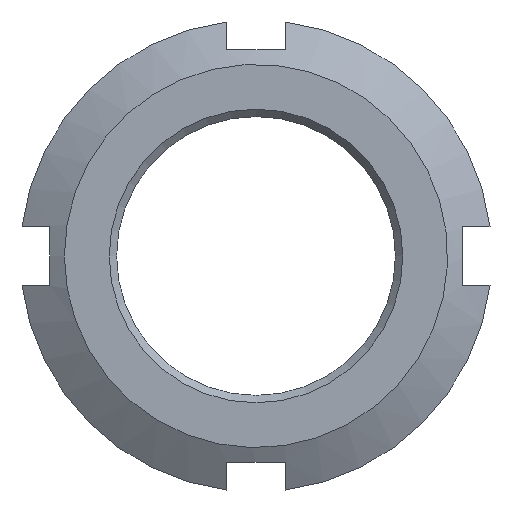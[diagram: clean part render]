
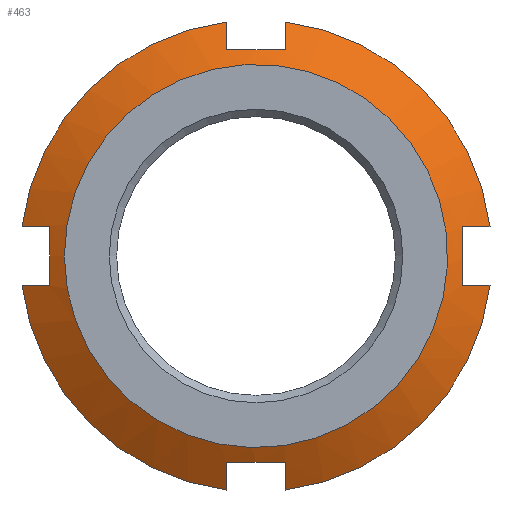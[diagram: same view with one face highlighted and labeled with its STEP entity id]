
A CAD part, left-side view. The second image highlights one B-rep face of the part: STEP entity #463.
In plain terms, the highlighted conical face has half-angle 60 degrees and reference radius 14.5 mm.
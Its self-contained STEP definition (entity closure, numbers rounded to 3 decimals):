
#15=(
BOUNDED_CURVE()
B_SPLINE_CURVE(2,(#701,#702,#703),.UNSPECIFIED.,.F.,.F.)
B_SPLINE_CURVE_WITH_KNOTS((3,3),(0.,0.216),.UNSPECIFIED.)
CURVE()
GEOMETRIC_REPRESENTATION_ITEM()
RATIONAL_B_SPLINE_CURVE((1.,1.002,1.))
REPRESENTATION_ITEM('')
);
#16=(
BOUNDED_CURVE()
B_SPLINE_CURVE(2,(#733,#734,#735),.UNSPECIFIED.,.F.,.F.)
B_SPLINE_CURVE_WITH_KNOTS((3,3),(0.,0.216),.UNSPECIFIED.)
CURVE()
GEOMETRIC_REPRESENTATION_ITEM()
RATIONAL_B_SPLINE_CURVE((1.,1.002,1.))
REPRESENTATION_ITEM('')
);
#17=(
BOUNDED_CURVE()
B_SPLINE_CURVE(2,(#765,#766,#767),.UNSPECIFIED.,.F.,.F.)
B_SPLINE_CURVE_WITH_KNOTS((3,3),(0.,0.216),.UNSPECIFIED.)
CURVE()
GEOMETRIC_REPRESENTATION_ITEM()
RATIONAL_B_SPLINE_CURVE((1.,1.002,1.))
REPRESENTATION_ITEM('')
);
#18=(
BOUNDED_CURVE()
B_SPLINE_CURVE(2,(#797,#798,#799),.UNSPECIFIED.,.F.,.F.)
B_SPLINE_CURVE_WITH_KNOTS((3,3),(0.,0.216),.UNSPECIFIED.)
CURVE()
GEOMETRIC_REPRESENTATION_ITEM()
RATIONAL_B_SPLINE_CURVE((1.,1.002,1.))
REPRESENTATION_ITEM('')
);
#19=(
BOUNDED_CURVE()
B_SPLINE_CURVE(2,(#805,#806,#807),.UNSPECIFIED.,.F.,.F.)
B_SPLINE_CURVE_WITH_KNOTS((3,3),(0.,0.216),.UNSPECIFIED.)
CURVE()
GEOMETRIC_REPRESENTATION_ITEM()
RATIONAL_B_SPLINE_CURVE((1.,1.002,1.))
REPRESENTATION_ITEM('')
);
#20=(
BOUNDED_CURVE()
B_SPLINE_CURVE(2,(#810,#811,#812),.UNSPECIFIED.,.F.,.F.)
B_SPLINE_CURVE_WITH_KNOTS((3,3),(0.568,0.999),
 .UNSPECIFIED.)
CURVE()
GEOMETRIC_REPRESENTATION_ITEM()
RATIONAL_B_SPLINE_CURVE((1.066,1.077,1.066))
REPRESENTATION_ITEM('')
);
#21=(
BOUNDED_CURVE()
B_SPLINE_CURVE(2,(#814,#815,#816),.UNSPECIFIED.,.F.,.F.)
B_SPLINE_CURVE_WITH_KNOTS((3,3),(0.568,0.999),
 .UNSPECIFIED.)
CURVE()
GEOMETRIC_REPRESENTATION_ITEM()
RATIONAL_B_SPLINE_CURVE((1.066,1.077,1.066))
REPRESENTATION_ITEM('')
);
#22=(
BOUNDED_CURVE()
B_SPLINE_CURVE(2,(#821,#822,#823),.UNSPECIFIED.,.F.,.F.)
B_SPLINE_CURVE_WITH_KNOTS((3,3),(0.,0.216),.UNSPECIFIED.)
CURVE()
GEOMETRIC_REPRESENTATION_ITEM()
RATIONAL_B_SPLINE_CURVE((1.,1.002,1.))
REPRESENTATION_ITEM('')
);
#23=(
BOUNDED_CURVE()
B_SPLINE_CURVE(2,(#826,#827,#828),.UNSPECIFIED.,.F.,.F.)
B_SPLINE_CURVE_WITH_KNOTS((3,3),(0.568,0.999),
 .UNSPECIFIED.)
CURVE()
GEOMETRIC_REPRESENTATION_ITEM()
RATIONAL_B_SPLINE_CURVE((1.066,1.077,1.066))
REPRESENTATION_ITEM('')
);
#24=(
BOUNDED_CURVE()
B_SPLINE_CURVE(2,(#841,#842,#843),.UNSPECIFIED.,.F.,.F.)
B_SPLINE_CURVE_WITH_KNOTS((3,3),(0.142,0.349),
 .UNSPECIFIED.)
CURVE()
GEOMETRIC_REPRESENTATION_ITEM()
RATIONAL_B_SPLINE_CURVE((1.003,1.003,1.))
REPRESENTATION_ITEM('')
);
#25=(
BOUNDED_CURVE()
B_SPLINE_CURVE(2,(#847,#848,#849),.UNSPECIFIED.,.F.,.F.)
B_SPLINE_CURVE_WITH_KNOTS((3,3),(0.568,0.999),
 .UNSPECIFIED.)
CURVE()
GEOMETRIC_REPRESENTATION_ITEM()
RATIONAL_B_SPLINE_CURVE((1.066,1.077,1.066))
REPRESENTATION_ITEM('')
);
#26=(
BOUNDED_CURVE()
B_SPLINE_CURVE(2,(#852,#853,#854),.UNSPECIFIED.,.F.,.F.)
B_SPLINE_CURVE_WITH_KNOTS((3,3),(0.,0.207),.UNSPECIFIED.)
CURVE()
GEOMETRIC_REPRESENTATION_ITEM()
RATIONAL_B_SPLINE_CURVE((1.,1.003,1.003))
REPRESENTATION_ITEM('')
);
#119=FACE_BOUND('',#177,.T.);
#145=FACE_OUTER_BOUND('',#176,.T.);
#176=EDGE_LOOP('',(#418,#419,#420,#421,#422,#423,#424,#425,#426,#427,#428,
#429,#430,#431,#432,#433));
#177=EDGE_LOOP('',(#434));
#181=CIRCLE('',#472,13.);
#191=CIRCLE('',#498,16.);
#192=CIRCLE('',#500,16.);
#193=CIRCLE('',#502,16.);
#194=CIRCLE('',#507,16.);
#198=VERTEX_POINT('',#635);
#218=VERTEX_POINT('',#698);
#219=VERTEX_POINT('',#700);
#222=VERTEX_POINT('',#730);
#223=VERTEX_POINT('',#732);
#226=VERTEX_POINT('',#762);
#227=VERTEX_POINT('',#764);
#230=VERTEX_POINT('',#794);
#231=VERTEX_POINT('',#796);
#232=VERTEX_POINT('',#802);
#233=VERTEX_POINT('',#804);
#234=VERTEX_POINT('',#818);
#235=VERTEX_POINT('',#820);
#236=VERTEX_POINT('',#830);
#237=VERTEX_POINT('',#834);
#238=VERTEX_POINT('',#840);
#239=VERTEX_POINT('',#846);
#243=EDGE_CURVE('',#198,#198,#181,.T.);
#265=EDGE_CURVE('',#219,#218,#15,.T.);
#271=EDGE_CURVE('',#223,#222,#16,.T.);
#277=EDGE_CURVE('',#227,#226,#17,.T.);
#283=EDGE_CURVE('',#231,#230,#18,.T.);
#286=EDGE_CURVE('',#233,#232,#19,.T.);
#288=EDGE_CURVE('',#222,#233,#20,.T.);
#289=EDGE_CURVE('',#226,#231,#21,.T.);
#291=EDGE_CURVE('',#235,#234,#22,.T.);
#293=EDGE_CURVE('',#218,#235,#23,.T.);
#294=EDGE_CURVE('',#236,#219,#191,.T.);
#297=EDGE_CURVE('',#230,#237,#192,.T.);
#298=EDGE_CURVE('',#234,#223,#193,.T.);
#299=EDGE_CURVE('',#238,#236,#24,.T.);
#301=EDGE_CURVE('',#239,#238,#25,.T.);
#303=EDGE_CURVE('',#237,#239,#26,.T.);
#304=EDGE_CURVE('',#232,#227,#194,.T.);
#418=ORIENTED_EDGE('',*,*,#286,.T.);
#419=ORIENTED_EDGE('',*,*,#304,.T.);
#420=ORIENTED_EDGE('',*,*,#277,.T.);
#421=ORIENTED_EDGE('',*,*,#289,.T.);
#422=ORIENTED_EDGE('',*,*,#283,.T.);
#423=ORIENTED_EDGE('',*,*,#297,.T.);
#424=ORIENTED_EDGE('',*,*,#303,.T.);
#425=ORIENTED_EDGE('',*,*,#301,.T.);
#426=ORIENTED_EDGE('',*,*,#299,.T.);
#427=ORIENTED_EDGE('',*,*,#294,.T.);
#428=ORIENTED_EDGE('',*,*,#265,.T.);
#429=ORIENTED_EDGE('',*,*,#293,.T.);
#430=ORIENTED_EDGE('',*,*,#291,.T.);
#431=ORIENTED_EDGE('',*,*,#298,.T.);
#432=ORIENTED_EDGE('',*,*,#271,.T.);
#433=ORIENTED_EDGE('',*,*,#288,.T.);
#434=ORIENTED_EDGE('',*,*,#243,.T.);
#437=CONICAL_SURFACE('',#508,14.5,60.);
#463=ADVANCED_FACE('',(#145,#119),#437,.T.);
#472=AXIS2_PLACEMENT_3D('',#636,#523,#524);
#498=AXIS2_PLACEMENT_3D('',#831,#599,#600);
#500=AXIS2_PLACEMENT_3D('',#836,#605,#606);
#502=AXIS2_PLACEMENT_3D('',#838,#609,#610);
#507=AXIS2_PLACEMENT_3D('',#856,#621,#622);
#508=AXIS2_PLACEMENT_3D('',#857,#623,#624);
#523=DIRECTION('center_axis',(1.,0.,0.));
#524=DIRECTION('ref_axis',(0.,-1.,0.));
#599=DIRECTION('center_axis',(-1.,0.,0.));
#600=DIRECTION('ref_axis',(0.,-1.,0.));
#605=DIRECTION('center_axis',(-1.,0.,0.));
#606=DIRECTION('ref_axis',(0.,-1.,0.));
#609=DIRECTION('center_axis',(-1.,0.,0.));
#610=DIRECTION('ref_axis',(0.,-1.,0.));
#621=DIRECTION('center_axis',(-1.,0.,0.));
#622=DIRECTION('ref_axis',(0.,-1.,0.));
#623=DIRECTION('center_axis',(1.,0.,0.));
#624=DIRECTION('ref_axis',(0.,-1.,0.));
#635=CARTESIAN_POINT('',(0.,13.,0.));
#636=CARTESIAN_POINT('Origin',(0.,0.,0.));
#698=CARTESIAN_POINT('',(0.659,2.,-14.));
#700=CARTESIAN_POINT('',(1.732,2.,-15.875));
#701=CARTESIAN_POINT('Ctrl Pts',(1.732,2.,-15.875));
#702=CARTESIAN_POINT('Ctrl Pts',(1.162,2.,-14.879));
#703=CARTESIAN_POINT('Ctrl Pts',(0.659,2.,-14.));
#730=CARTESIAN_POINT('',(0.659,-14.,-2.));
#732=CARTESIAN_POINT('',(1.732,-15.875,-2.));
#733=CARTESIAN_POINT('Ctrl Pts',(1.732,-15.875,-2.));
#734=CARTESIAN_POINT('Ctrl Pts',(1.162,-14.879,-2.));
#735=CARTESIAN_POINT('Ctrl Pts',(0.659,-14.,-2.));
#762=CARTESIAN_POINT('',(0.659,-2.,14.));
#764=CARTESIAN_POINT('',(1.732,-2.,15.875));
#765=CARTESIAN_POINT('Ctrl Pts',(1.732,-2.,15.875));
#766=CARTESIAN_POINT('Ctrl Pts',(1.162,-2.,14.879));
#767=CARTESIAN_POINT('Ctrl Pts',(0.659,-2.,14.));
#794=CARTESIAN_POINT('',(1.732,2.,15.875));
#796=CARTESIAN_POINT('',(0.659,2.,14.));
#797=CARTESIAN_POINT('Ctrl Pts',(0.659,2.,14.));
#798=CARTESIAN_POINT('Ctrl Pts',(1.162,2.,14.879));
#799=CARTESIAN_POINT('Ctrl Pts',(1.732,2.,15.875));
#802=CARTESIAN_POINT('',(1.732,-15.875,2.));
#804=CARTESIAN_POINT('',(0.659,-14.,2.));
#805=CARTESIAN_POINT('Ctrl Pts',(0.659,-14.,2.));
#806=CARTESIAN_POINT('Ctrl Pts',(1.162,-14.879,2.));
#807=CARTESIAN_POINT('Ctrl Pts',(1.732,-15.875,2.));
#810=CARTESIAN_POINT('Ctrl Pts',(0.659,-14.,-2.));
#811=CARTESIAN_POINT('Ctrl Pts',(0.496,-14.,0.));
#812=CARTESIAN_POINT('Ctrl Pts',(0.659,-14.,2.));
#814=CARTESIAN_POINT('Ctrl Pts',(0.659,-2.,14.));
#815=CARTESIAN_POINT('Ctrl Pts',(0.496,0.,
14.));
#816=CARTESIAN_POINT('Ctrl Pts',(0.659,2.,14.));
#818=CARTESIAN_POINT('',(1.732,-2.,-15.875));
#820=CARTESIAN_POINT('',(0.659,-2.,-14.));
#821=CARTESIAN_POINT('Ctrl Pts',(0.659,-2.,-14.));
#822=CARTESIAN_POINT('Ctrl Pts',(1.162,-2.,-14.879));
#823=CARTESIAN_POINT('Ctrl Pts',(1.732,-2.,-15.875));
#826=CARTESIAN_POINT('Ctrl Pts',(0.659,2.,-14.));
#827=CARTESIAN_POINT('Ctrl Pts',(0.496,0.,
-14.));
#828=CARTESIAN_POINT('Ctrl Pts',(0.659,-2.,-14.));
#830=CARTESIAN_POINT('',(1.732,15.875,-2.));
#831=CARTESIAN_POINT('Origin',(1.732,0.,0.));
#834=CARTESIAN_POINT('',(1.732,15.875,2.));
#836=CARTESIAN_POINT('Origin',(1.732,0.,0.));
#838=CARTESIAN_POINT('Origin',(1.732,0.,0.));
#840=CARTESIAN_POINT('',(0.659,14.,-2.));
#841=CARTESIAN_POINT('Ctrl Pts',(0.659,14.,-2.));
#842=CARTESIAN_POINT('Ctrl Pts',(1.162,14.879,-2.));
#843=CARTESIAN_POINT('Ctrl Pts',(1.732,15.875,-2.));
#846=CARTESIAN_POINT('',(0.659,14.,2.));
#847=CARTESIAN_POINT('Ctrl Pts',(0.659,14.,2.));
#848=CARTESIAN_POINT('Ctrl Pts',(0.496,14.,0.));
#849=CARTESIAN_POINT('Ctrl Pts',(0.659,14.,-2.));
#852=CARTESIAN_POINT('Ctrl Pts',(1.732,15.875,2.));
#853=CARTESIAN_POINT('Ctrl Pts',(1.162,14.879,2.));
#854=CARTESIAN_POINT('Ctrl Pts',(0.659,14.,2.));
#856=CARTESIAN_POINT('Origin',(1.732,0.,0.));
#857=CARTESIAN_POINT('Origin',(0.866,0.,0.));
